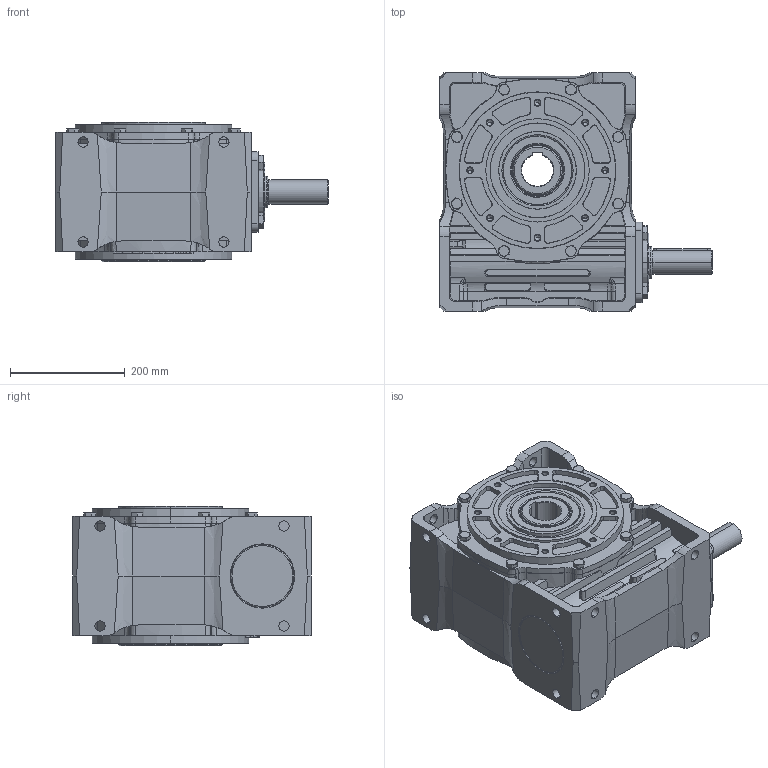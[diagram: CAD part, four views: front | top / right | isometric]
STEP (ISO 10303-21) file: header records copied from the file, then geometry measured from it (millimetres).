
FILE_DESCRIPTION (( 'STEP AP203' ), '1' );
FILE_NAME ('MR-160_WBS-3D.STEP', '2020-03-23T06:29:26', ( '' ), ( '' ), 'SwSTEP 2.0', 'SolidWorks 2013', '' );
FILE_SCHEMA (( 'CONFIG_CONTROL_DESIGN' ));
Length unit declared in the file: millimetre
Products named in the file (8): hex screw gradeab_iso_ISO 4017 - M16 x 30-N; MR-160_WBS-3D; MR-160 - do modeli; Zaœlepka 110; Œlimak R-160_WBS; Pokrywa 166_do nowej wersji; Simmering 55x90x10 RST; parallel_din_Parallel key A12 x 8 x 100 DIN 6885
Assembly tree (10 placements, depth 2):
  MR-160_WBS-3D
    MR-160 - do modeli
    Zaœlepka 110
    Œlimak R-160_WBS
    Pokrywa 166_do nowej wersji
    Simmering 55x90x10 RST
    parallel_din_Parallel key A12 x 8 x 100 DIN 6885
    hex screw gradeab_iso_ISO 4017 - M16 x 30-N  x4
Bounding box: 474 x 415 x 242 mm (x, y, z)
Volume: 13210463.9 mm3; surface area: 1884098.5 mm2
Topology: 22 solids, 22 shells, 2572 faces, 6253 edges, 3777 vertices
Faces by surface type: plane 741, cone 667, cylinder 502, bspline 483, torus 100, sphere 79
Entity records: 96048 total; most frequent: CARTESIAN_POINT 40878, ORIENTED_EDGE 12006, DIRECTION 10591, EDGE_CURVE 6003, AXIS2_PLACEMENT_3D 4208, VERTEX_POINT 3675, EDGE_LOOP 2670, ADVANCED_FACE 2485
